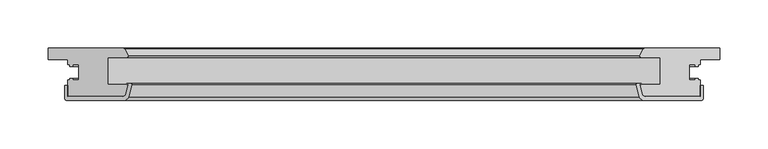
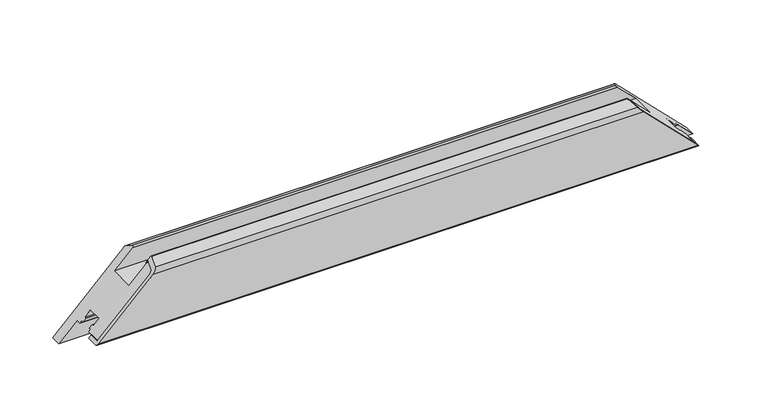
"""IFC4 building model written with IfcOpenShell, lengths in millimetres: proxy geometry, Weiku - Montante - Folha 02.2.01.017 : Weiku - Montante - Folha 02.2.01.017."""

from ifc_helpers import new_model, si_unit, frame, origin, place, context, project, spatial, polyline, ellipse_curve, source, transform, mapped, element, save
from ifc_brep_helpers import plane_surface, cylinder_surface, revolved_surface, advanced_brep


def generic_models_56c178b5(model_context):
    return source(origin(), model_context, "Body", "AdvancedBrep", [
        advanced_brep(
        [(326.75, -50.0, 20.0), (-326.75, -50.0, 20.0), (-269.7497332, -50.0, 77.0002668), (269.7497332, -50.0, 77.0002668), (-266.8519557, -47.7764571, 79.8980443), (266.8519557, -47.7764571, 79.8980443), (-264.2670371, -38.1294095, 82.4829629), (264.2670371, -38.1294095, 82.4829629), (-264.75, -37.5, 82.0), (264.75, -37.5, 82.0), (-265.6060102, -37.5, 81.1439898), (265.6060102, -37.5, 81.1439898), (-265.6060102, -36.5, 81.1439898), (265.6060102, -36.5, 81.1439898), (-260.9925588, -36.5, 85.7574412), (260.9925588, -36.5, 85.7574412), (-260.0266329, -37.758819, 86.7233671), (260.0266329, -37.758819, 86.7233671), (-263.3854501, -50.2940952, 83.3645499), (263.3854501, -50.2940952, 83.3645499), (-268.2150792, -54.0, 78.5349208), (268.2150792, -54.0, 78.5349208), (-327.75, -54.0, 19.0), (327.75, -54.0, 19.0), (-329.75, -52.0, 17.0), (329.75, -52.0, 17.0), (-329.75, -38.5, 17.0), (329.75, -38.5, 17.0), (-326.75, -38.5, 20.0), (326.75, -38.5, 20.0)],
        [
            (0, 1),
            (1, 2),
            (2, 3),
            (3, 0),
            (2, 4, ellipse_curve(frame((-269.7497332, -47.0, 77.0002668), z_axis=(-0.7071067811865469, 0.0, 0.7071067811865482), x_axis=(0.707106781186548, 0.0, 0.7071067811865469)), 4.2426407, 3.0)),
            (4, 5),
            (5, 3, ellipse_curve(frame((269.7497332, -47.0, 77.0002668), z_axis=(0.7071067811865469, 0.0, 0.7071067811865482), x_axis=(0.707106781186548, 0.0, -0.7071067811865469)), 4.2426407, 3.0)),
            (4, 6),
            (6, 7),
            (7, 5),
            (6, 8, ellipse_curve(frame((-264.75, -38.0, 82.0), z_axis=(-0.7071067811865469, 0.0, 0.7071067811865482), x_axis=(0.707106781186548, 0.0, 0.7071067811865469)), 0.7071068, 0.5)),
            (8, 9),
            (9, 7, ellipse_curve(frame((264.75, -38.0, 82.0), z_axis=(0.7071067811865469, 0.0, 0.7071067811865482), x_axis=(0.707106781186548, 0.0, -0.7071067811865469)), 0.7071068, 0.5)),
            (8, 10),
            (10, 11),
            (11, 9),
            (10, 12, ellipse_curve(frame((-265.6060102, -37.0, 81.1439898), z_axis=(0.7071067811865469, 0.0, -0.7071067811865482), x_axis=(-0.707106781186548, 0.0, -0.7071067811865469)), 0.7071068, 0.5)),
            (12, 13),
            (13, 11, ellipse_curve(frame((265.6060102, -37.0, 81.1439898), z_axis=(-0.7071067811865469, 0.0, -0.7071067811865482), x_axis=(-0.707106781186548, 0.0, 0.7071067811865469)), 0.7071068, 0.5)),
            (12, 14),
            (14, 15),
            (15, 13),
            (14, 16, ellipse_curve(frame((-260.9925588, -37.5, 85.7574412), z_axis=(0.7071067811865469, 0.0, -0.7071067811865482), x_axis=(-0.707106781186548, 0.0, -0.7071067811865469)), 1.4142136, 1.0)),
            (16, 17),
            (17, 15, ellipse_curve(frame((260.9925588, -37.5, 85.7574412), z_axis=(-0.7071067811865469, 0.0, -0.7071067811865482), x_axis=(-0.707106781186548, 0.0, 0.7071067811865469)), 1.4142136, 1.0)),
            (16, 18),
            (18, 19),
            (19, 17),
            (18, 20, ellipse_curve(frame((-268.2150792, -49.0, 78.5349208), z_axis=(0.7071067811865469, 0.0, -0.7071067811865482), x_axis=(-0.707106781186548, 0.0, -0.7071067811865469)), 7.0710678, 5.0)),
            (20, 21),
            (21, 19, ellipse_curve(frame((268.2150792, -49.0, 78.5349208), z_axis=(-0.7071067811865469, 0.0, -0.7071067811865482), x_axis=(-0.707106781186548, 0.0, 0.7071067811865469)), 7.0710678, 5.0)),
            (20, 22),
            (22, 23),
            (23, 21),
            (22, 24, ellipse_curve(frame((-327.75, -52.0, 19.0), z_axis=(0.7071067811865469, 0.0, -0.7071067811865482), x_axis=(-0.707106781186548, 0.0, -0.7071067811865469)), 2.8284271, 2.0)),
            (24, 25),
            (25, 23, ellipse_curve(frame((327.75, -52.0, 19.0), z_axis=(-0.7071067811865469, 0.0, -0.7071067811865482), x_axis=(-0.707106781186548, 0.0, 0.7071067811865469)), 2.8284271, 2.0)),
            (24, 26),
            (26, 27),
            (27, 25),
            (26, 28),
            (28, 29),
            (29, 27),
            (28, 1),
            (0, 29),
        ],
        [
            plane_surface(frame((-366.75, -50.0, 20.0), z_axis=(0.0, 1.0, 0.0), x_axis=(1.0, 0.0, 0.0))),
            revolved_surface(polyline([(272.74973320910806, -50.0, 77.0002668), (-272.74973320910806, -50.0, 77.0002668)]), (-366.75, -47.0, 77.0002668), (1.0, 0.0, 0.0)),
            plane_surface(frame((-366.75, -47.7764571, 79.8980443), z_axis=(0.0, 0.2588190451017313, -0.9659258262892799), x_axis=(1.0, 0.0, 0.0))),
            revolved_surface(polyline([(265.25000001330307, -38.5, 82.0), (-265.2500000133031, -38.5, 82.0)]), (-366.75, -38.0, 82.0), (1.0, 0.0, 0.0)),
            plane_surface(frame((-366.75, -37.5, 82.0), z_axis=(0.0, -1.0, 0.0), x_axis=(1.0, 0.0, 0.0))),
            cylinder_surface(frame((-366.75, -37.0, 81.1439898), z_axis=(-1.0, 0.0, 0.0), x_axis=(0.0, -1.0, 0.0)), 0.5),
            plane_surface(frame((-366.75, -36.5, 81.1439898), z_axis=(0.0, 1.0, 0.0), x_axis=(1.0, 0.0, 0.0))),
            cylinder_surface(frame((-366.75, -37.5, 85.7574412), z_axis=(-1.0, 0.0, 0.0), x_axis=(0.0, -1.0, 0.0)), 1.0),
            plane_surface(frame((-366.75, -37.758819, 86.7233671), z_axis=(0.0, -0.25881904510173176, 0.9659258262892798), x_axis=(1.0, 0.0, 0.0))),
            cylinder_surface(frame((-366.75, -49.0, 78.5349208), z_axis=(-1.0, 0.0, 0.0), x_axis=(0.0, -1.0, 0.0)), 5.0),
            plane_surface(frame((-366.75, -54.0, 78.5349208), z_axis=(0.0, -1.0, 0.0), x_axis=(1.0, 0.0, 0.0))),
            cylinder_surface(frame((-366.75, -52.0, 19.0), z_axis=(-1.0, 0.0, 0.0), x_axis=(0.0, -1.0, 0.0)), 2.0),
            plane_surface(frame((-366.75, -52.0, 17.0), z_axis=(0.0, 0.0, -1.0), x_axis=(1.0, 0.0, 0.0))),
            plane_surface(frame((-366.75, -38.5, 17.0), z_axis=(0.0, 1.0, 0.0), x_axis=(1.0, 0.0, 0.0))),
            plane_surface(frame((-366.75, -38.5, 20.0), z_axis=(0.0, 0.0, 1.0), x_axis=(1.0, 0.0, 0.0))),
            plane_surface(frame((256.75, 0.0, 90.0), z_axis=(0.7071067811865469, 0.0, 0.7071067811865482), x_axis=(0.0, -1.0, 0.0))),
            plane_surface(frame((-375.0342712, 0.0, -28.2842712), z_axis=(-0.7071067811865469, 0.0, 0.7071067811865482), x_axis=(0.0, -1.0, 0.0))),
        ],
        [
            (0, [[1, 2, 3, 4]]),
            (1, [[-3, 5, 6, 7]]),
            (2, [[-6, 8, 9, 10]]),
            (3, [[-9, 11, 12, 13]]),
            (4, [[-12, 14, 15, 16]]),
            (5, [[-15, 17, 18, 19]]),
            (6, [[-18, 20, 21, 22]]),
            (7, [[-21, 23, 24, 25]]),
            (8, [[-24, 26, 27, 28]]),
            (9, [[-27, 29, 30, 31]]),
            (10, [[-30, 32, 33, 34]]),
            (11, [[-33, 35, 36, 37]]),
            (12, [[-36, 38, 39, 40]]),
            (13, [[-39, 41, 42, 43]]),
            (14, [[-42, 44, -1, 45]]),
            (15, [[-7, -10, -13, -16, -19, -22, -25, -28, -31, -34, -37, -40, -43, -45, -4]]),
            (16, [[-44, -41, -38, -35, -32, -29, -26, -23, -20, -17, -14, -11, -8, -5, -2]]),
        ],
    ),
        advanced_brep(
        [(-326.75, -50.0, 20.0), (326.75, -50.0, 20.0), (269.7497332, -50.0, 77.0002668), (-269.7497332, -50.0, 77.0002668), (-346.75, 0.0, 0.0), (-268.7372264, 0.0, 78.0127736), (268.7372264, 0.0, 78.0127736), (346.75, 0.0, 0.0), (-266.8519557, -47.7764571, 79.8980443), (-264.2670371, -38.1294095, 82.4829629), (-264.75, -37.5, 82.0), (-285.25, -37.5, 61.5), (-285.25, -9.5, 61.5), (-265.4634285, -9.5, 81.2865715), (-264.3012796, -7.617411, 82.4487204), (-267.8432657, -0.5518546, 78.9067343), (-346.75, -11.5, 0.0), (-326.75, -11.5, 20.0), (-326.75, -16.9, 20.0), (-324.55, -16.9, 22.2), (-324.55, -18.9, 22.2), (-321.75, -18.9, 25.0), (-321.75, -16.9, 25.0), (-315.25, -16.9, 31.5), (-315.25, -33.1, 31.5), (-321.75, -33.1, 25.0), (-321.75, -31.1, 25.0), (-324.55, -31.1, 22.2), (-324.55, -33.1, 22.2), (-326.75, -33.1, 20.0), (326.75, -33.1, 20.0), (324.55, -33.1, 22.2), (324.55, -31.1, 22.2), (321.75, -31.1, 25.0), (321.75, -33.1, 25.0), (315.25, -33.1, 31.5), (315.25, -16.9, 31.5), (321.75, -16.9, 25.0), (321.75, -18.9, 25.0), (324.55, -18.9, 22.2), (324.55, -16.9, 22.2), (326.75, -16.9, 20.0), (326.75, -11.5, 20.0), (346.75, -11.5, 0.0), (267.8432657, -0.5518546, 78.9067343), (264.3012796, -7.617411, 82.4487204), (265.4634285, -9.5, 81.2865715), (285.25, -9.5, 61.5), (285.25, -37.5, 61.5), (264.75, -37.5, 82.0), (264.2670371, -38.1294095, 82.4829629), (266.8519557, -47.7764571, 79.8980443)],
        [
            (0, 1),
            (1, 2),
            (2, 3),
            (3, 0),
            (4, 5),
            (5, 6),
            (6, 7),
            (7, 4),
            (3, 8, ellipse_curve(frame((-269.7497332, -47.0, 77.0002668), z_axis=(-0.7071067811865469, 0.0, 0.7071067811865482), x_axis=(-0.707106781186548, 0.0, -0.7071067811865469)), 4.2426407, 3.0)),
            (8, 9),
            (9, 10, ellipse_curve(frame((-264.75, -38.0, 82.0), z_axis=(-0.7071067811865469, 0.0, 0.7071067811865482), x_axis=(-0.707106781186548, 0.0, -0.7071067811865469)), 0.7071068, 0.5)),
            (10, 11),
            (11, 12),
            (12, 13),
            (13, 14, ellipse_curve(frame((-265.4634285, -8.2, 81.2865715), z_axis=(-0.7071067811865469, 0.0, 0.7071067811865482), x_axis=(-0.707106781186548, 0.0, -0.7071067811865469)), 1.8384776, 1.3)),
            (14, 15),
            (15, 5, ellipse_curve(frame((-268.7372264, -1.0, 78.0127736), z_axis=(-0.7071067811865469, 0.0, 0.7071067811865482), x_axis=(-0.707106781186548, 0.0, -0.7071067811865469)), 1.4142136, 1.0)),
            (4, 16),
            (16, 17),
            (17, 18),
            (18, 19),
            (19, 20),
            (20, 21),
            (21, 22),
            (22, 23),
            (23, 24),
            (24, 25),
            (25, 26),
            (26, 27),
            (27, 28),
            (28, 29),
            (29, 0),
            (1, 30),
            (30, 31),
            (31, 32),
            (32, 33),
            (33, 34),
            (34, 35),
            (35, 36),
            (36, 37),
            (37, 38),
            (38, 39),
            (39, 40),
            (40, 41),
            (41, 42),
            (42, 43),
            (43, 7),
            (6, 44, ellipse_curve(frame((268.7372264, -1.0, 78.0127736), z_axis=(0.7071067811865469, 0.0, 0.7071067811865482), x_axis=(-0.707106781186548, 0.0, 0.7071067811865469)), 1.4142136, 1.0)),
            (44, 45),
            (45, 46, ellipse_curve(frame((265.4634285, -8.2, 81.2865715), z_axis=(0.7071067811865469, 0.0, 0.7071067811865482), x_axis=(-0.707106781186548, 0.0, 0.7071067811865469)), 1.8384776, 1.3)),
            (46, 47),
            (47, 48),
            (48, 49),
            (49, 50, ellipse_curve(frame((264.75, -38.0, 82.0), z_axis=(0.7071067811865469, 0.0, 0.7071067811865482), x_axis=(-0.707106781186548, 0.0, 0.7071067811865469)), 0.7071068, 0.5)),
            (50, 51),
            (51, 2, ellipse_curve(frame((269.7497332, -47.0, 77.0002668), z_axis=(0.7071067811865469, 0.0, 0.7071067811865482), x_axis=(-0.707106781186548, 0.0, 0.7071067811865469)), 4.2426407, 3.0)),
            (15, 44),
            (14, 45),
            (13, 46),
            (12, 47),
            (11, 48),
            (10, 49),
            (9, 50),
            (8, 51),
            (29, 30),
            (28, 31),
            (27, 32),
            (26, 33),
            (25, 34),
            (24, 35),
            (23, 36),
            (22, 37),
            (21, 38),
            (20, 39),
            (19, 40),
            (18, 41),
            (17, 42),
            (16, 43),
        ],
        [
            plane_surface(frame((-346.75, -50.0, 77.0002668), z_axis=(0.0, -1.0, 0.0), x_axis=(1.0, 0.0, 0.0))),
            plane_surface(frame((-346.75, 0.0, 0.0), z_axis=(0.0, 1.0, 0.0), x_axis=(1.0, 0.0, 0.0))),
            plane_surface(frame((-375.0342712, 0.0, -28.2842712), z_axis=(-0.7071067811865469, 0.0, 0.7071067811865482), x_axis=(0.0, -1.0, 0.0))),
            plane_surface(frame((256.75, 0.0, 90.0), z_axis=(0.7071067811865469, 0.0, 0.7071067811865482), x_axis=(0.0, -1.0, 0.0))),
            cylinder_surface(frame((-346.75, -1.0, 78.0127736), z_axis=(-1.0, 0.0, 0.0), x_axis=(0.0, -1.0, 0.0)), 1.0),
            plane_surface(frame((-346.75, -0.5518546, 78.9067343), z_axis=(0.0, 0.4481453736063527, 0.8939606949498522), x_axis=(1.0, 0.0, 0.0))),
            cylinder_surface(frame((-346.75, -8.2, 81.2865715), z_axis=(-1.0, 0.0, 0.0), x_axis=(0.0, -1.0, 0.0)), 1.3),
            plane_surface(frame((-346.75, -9.5, 81.2865715), z_axis=(0.0, -1.0, 0.0), x_axis=(1.0, 0.0, 0.0))),
            plane_surface(frame((-346.75, -9.5, 61.5), z_axis=(0.0, 0.0, 1.0), x_axis=(1.0, 0.0, 0.0))),
            plane_surface(frame((-346.75, -37.5, 61.5), z_axis=(0.0, 1.0, 0.0), x_axis=(1.0, 0.0, 0.0))),
            cylinder_surface(frame((-346.75, -38.0, 82.0), z_axis=(-1.0, 0.0, 0.0), x_axis=(0.0, -1.0, 0.0)), 0.5),
            plane_surface(frame((-346.75, -38.1294095, 82.4829629), z_axis=(0.0, -0.2588190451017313, 0.9659258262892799), x_axis=(1.0, 0.0, 0.0))),
            cylinder_surface(frame((-346.75, -47.0, 77.0002668), z_axis=(-1.0, 0.0, 0.0), x_axis=(0.0, -1.0, 0.0)), 3.0),
            plane_surface(frame((-346.75, -50.0, 20.0), z_axis=(0.0, 0.0, -1.0), x_axis=(1.0, 0.0, 0.0))),
            plane_surface(frame((-346.75, -33.1, 20.0), z_axis=(0.0, 1.0, 0.0), x_axis=(1.0, 0.0, 0.0))),
            plane_surface(frame((-346.75, -33.1, 22.2), z_axis=(0.0, 0.0, -1.0), x_axis=(1.0, 0.0, 0.0))),
            plane_surface(frame((-346.75, -31.1, 22.2), z_axis=(0.0, 1.0, 0.0), x_axis=(1.0, 0.0, 0.0))),
            plane_surface(frame((-346.75, -31.1, 25.0), z_axis=(0.0, 0.0, 1.0), x_axis=(1.0, 0.0, 0.0))),
            plane_surface(frame((-346.75, -33.1, 25.0), z_axis=(0.0, 1.0, 0.0), x_axis=(1.0, 0.0, 0.0))),
            plane_surface(frame((-346.75, -33.1, 31.5), z_axis=(0.0, 0.0, -1.0), x_axis=(1.0, 0.0, 0.0))),
            plane_surface(frame((-346.75, -16.9, 31.5), z_axis=(0.0, -1.0, 0.0), x_axis=(1.0, 0.0, 0.0))),
            plane_surface(frame((-346.75, -16.9, 25.0), z_axis=(0.0, 0.0, 1.0), x_axis=(1.0, 0.0, 0.0))),
            plane_surface(frame((-346.75, -18.9, 25.0), z_axis=(0.0, -1.0, 0.0), x_axis=(1.0, 0.0, 0.0))),
            plane_surface(frame((-346.75, -18.9, 22.2), z_axis=(0.0, 0.0, -1.0), x_axis=(1.0, 0.0, 0.0))),
            plane_surface(frame((-346.75, -16.9, 22.2), z_axis=(0.0, -1.0, 0.0), x_axis=(1.0, 0.0, 0.0))),
            plane_surface(frame((-346.75, -16.9, 20.0), z_axis=(0.0, 0.0, -1.0), x_axis=(1.0, 0.0, 0.0))),
            plane_surface(frame((-346.75, -11.5, 20.0), z_axis=(0.0, -1.0, 0.0), x_axis=(1.0, 0.0, 0.0))),
            plane_surface(frame((-346.75, -11.5, 0.0), z_axis=(0.0, 0.0, -1.0), x_axis=(1.0, 0.0, 0.0))),
        ],
        [
            (0, [[1, 2, 3, 4]]),
            (1, [[5, 6, 7, 8]]),
            (2, [[9, 10, 11, 12, 13, 14, 15, 16, 17, -5, 18, 19, 20, 21, 22, 23, 24, 25, 26, 27, 28, 29, 30, 31, 32, -4]]),
            (3, [[33, 34, 35, 36, 37, 38, 39, 40, 41, 42, 43, 44, 45, 46, 47, -7, 48, 49, 50, 51, 52, 53, 54, 55, 56, -2]]),
            (4, [[57, -48, -6, -17]]),
            (5, [[58, -49, -57, -16]]),
            (6, [[59, -50, -58, -15]]),
            (7, [[60, -51, -59, -14]]),
            (8, [[61, -52, -60, -13]]),
            (9, [[62, -53, -61, -12]]),
            (10, [[63, -54, -62, -11]]),
            (11, [[64, -55, -63, -10]]),
            (12, [[-3, -56, -64, -9]]),
            (13, [[65, -33, -1, -32]]),
            (14, [[66, -34, -65, -31]]),
            (15, [[67, -35, -66, -30]]),
            (16, [[68, -36, -67, -29]]),
            (17, [[69, -37, -68, -28]]),
            (18, [[70, -38, -69, -27]]),
            (19, [[71, -39, -70, -26]]),
            (20, [[72, -40, -71, -25]]),
            (21, [[73, -41, -72, -24]]),
            (22, [[74, -42, -73, -23]]),
            (23, [[75, -43, -74, -22]]),
            (24, [[76, -44, -75, -21]]),
            (25, [[77, -45, -76, -20]]),
            (26, [[-46, -77, -19, 78]]),
            (27, [[-47, -78, -18, -8]]),
        ],
    ),
    ])


if __name__ == "__main__":
    model = new_model("IFC4")
    model_context = context("Model", 3, world=origin())
    ifc_project = project(units=[si_unit("LENGTHUNIT", "METRE", prefix="MILLI")], contexts=[model_context])
    site = spatial("IfcSite", under=ifc_project)
    building = spatial("IfcBuilding", under=site)
    placement = place(None, origin())
    generic_models_shape = generic_models_56c178b5(model_context)
    element("IfcBuildingElementProxy", 1, Name="Weiku - Montante - Folha 02.2.01.017 : Weiku - Montante - Folha 02.2.01.017", ObjectType="Weiku - Montante - Folha 02.2.01.017 : Weiku - Montante - Folha 02.2.01.017", at=placement, inside=building, context=model_context, shape_type="MappedRepresentation", body=[
        mapped(generic_models_shape, transform((0.0, 0.0, 0.0), x_axis=(1.0, 0.0, 0.0), y_axis=(0.0, 1.0, 0.0), z_axis=(0.0, 0.0, 1.0))),
    ])
    save(model, "model.ifc")
